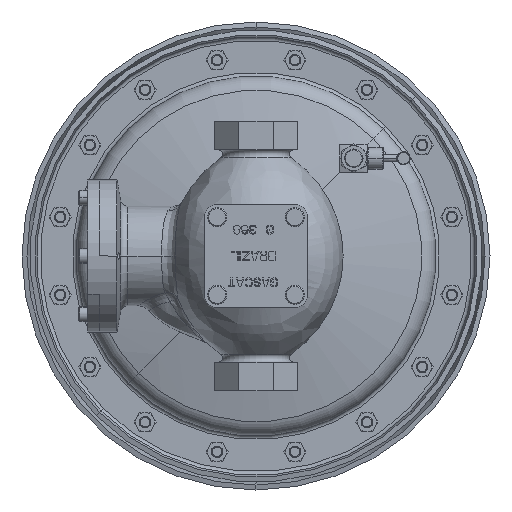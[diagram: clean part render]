
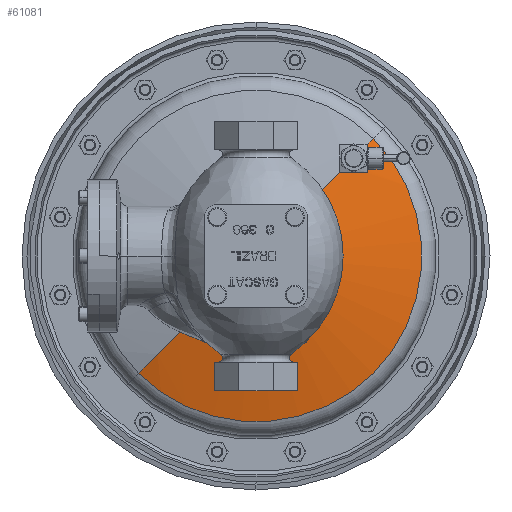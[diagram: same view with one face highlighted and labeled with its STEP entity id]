
A CAD part, front view. The second image highlights one B-rep face of the part: STEP entity #61081.
In plain terms, the highlighted spherical face has radius 403.5 mm.
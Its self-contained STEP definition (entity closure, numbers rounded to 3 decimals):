
#16664=CARTESIAN_POINT('',(60.069,109.578,60.069));
#16736=CARTESIAN_POINT('',(73.574,114.18,73.574));
#16743=CARTESIAN_POINT('',(73.574,114.18,73.574));
#16744=CARTESIAN_POINT('',(73.677,114.18,73.472));
#16745=CARTESIAN_POINT('',(73.876,114.179,73.264));
#16746=CARTESIAN_POINT('',(74.161,114.172,72.937));
#16747=CARTESIAN_POINT('',(74.431,114.16,72.598));
#16748=CARTESIAN_POINT('',(74.685,114.143,72.246));
#16749=CARTESIAN_POINT('',(74.924,114.122,71.883));
#16750=CARTESIAN_POINT('',(75.145,114.096,71.51));
#16751=CARTESIAN_POINT('',(75.35,114.065,71.126));
#16752=CARTESIAN_POINT('',(75.537,114.03,70.734));
#16753=CARTESIAN_POINT('',(75.706,113.99,70.333));
#16754=CARTESIAN_POINT('',(75.857,113.946,69.923));
#16755=CARTESIAN_POINT('',(75.99,113.897,69.507));
#16756=CARTESIAN_POINT('',(76.103,113.844,69.085));
#16757=CARTESIAN_POINT('',(76.197,113.787,68.657));
#16758=CARTESIAN_POINT('',(76.271,113.726,68.225));
#16759=CARTESIAN_POINT('',(76.326,113.661,67.789));
#16760=CARTESIAN_POINT('',(76.36,113.591,67.35));
#16761=CARTESIAN_POINT('',(76.375,113.519,66.91));
#16762=CARTESIAN_POINT('',(76.368,113.442,66.468));
#16763=CARTESIAN_POINT('',(76.342,113.362,66.027));
#16764=CARTESIAN_POINT('',(76.295,113.279,65.587));
#16765=CARTESIAN_POINT('',(76.227,113.192,65.148));
#16766=CARTESIAN_POINT('',(76.139,113.103,64.713));
#16767=CARTESIAN_POINT('',(76.031,113.01,64.281));
#16768=CARTESIAN_POINT('',(75.903,112.915,63.855));
#16769=CARTESIAN_POINT('',(75.754,112.818,63.434));
#16770=CARTESIAN_POINT('',(75.586,112.719,63.02));
#16771=CARTESIAN_POINT('',(75.399,112.618,62.614));
#16772=CARTESIAN_POINT('',(75.192,112.515,62.217));
#16773=CARTESIAN_POINT('',(74.967,112.41,61.83));
#16774=CARTESIAN_POINT('',(74.724,112.304,61.454));
#16775=CARTESIAN_POINT('',(74.464,112.198,61.089));
#16776=CARTESIAN_POINT('',(74.186,112.09,60.736));
#16777=CARTESIAN_POINT('',(73.892,111.982,60.397));
#16778=CARTESIAN_POINT('',(73.582,111.874,60.071));
#16779=CARTESIAN_POINT('',(73.258,111.766,59.762));
#16780=CARTESIAN_POINT('',(72.921,111.659,59.468));
#16781=CARTESIAN_POINT('',(72.572,111.552,59.193));
#16782=CARTESIAN_POINT('',(72.215,111.448,58.936));
#16783=CARTESIAN_POINT('',(71.85,111.345,58.699));
#16784=CARTESIAN_POINT('',(71.478,111.245,58.48));
#16785=CARTESIAN_POINT('',(71.101,111.147,58.28));
#16786=CARTESIAN_POINT('',(70.718,111.051,58.099));
#16787=CARTESIAN_POINT('',(70.332,110.958,57.937));
#16788=CARTESIAN_POINT('',(69.943,110.867,57.793));
#16789=CARTESIAN_POINT('',(69.55,110.779,57.666));
#16790=CARTESIAN_POINT('',(69.155,110.693,57.558));
#16791=CARTESIAN_POINT('',(68.757,110.61,57.467));
#16792=CARTESIAN_POINT('',(68.358,110.53,57.393));
#16793=CARTESIAN_POINT('',(67.958,110.452,57.337));
#16794=CARTESIAN_POINT('',(67.557,110.377,57.297));
#16795=CARTESIAN_POINT('',(67.155,110.305,57.275));
#16796=CARTESIAN_POINT('',(66.753,110.236,57.269));
#16797=CARTESIAN_POINT('',(66.351,110.17,57.28));
#16798=CARTESIAN_POINT('',(65.949,110.107,57.309));
#16799=CARTESIAN_POINT('',(65.549,110.046,57.354));
#16800=CARTESIAN_POINT('',(65.149,109.989,57.416));
#16801=CARTESIAN_POINT('',(64.752,109.935,57.496));
#16802=CARTESIAN_POINT('',(64.357,109.885,57.592));
#16803=CARTESIAN_POINT('',(63.964,109.837,57.706));
#16804=CARTESIAN_POINT('',(63.576,109.794,57.837));
#16805=CARTESIAN_POINT('',(63.191,109.754,57.985));
#16806=CARTESIAN_POINT('',(62.812,109.718,58.151));
#16807=CARTESIAN_POINT('',(62.438,109.685,58.334));
#16808=CARTESIAN_POINT('',(62.071,109.657,58.533));
#16809=CARTESIAN_POINT('',(61.713,109.633,58.749));
#16810=CARTESIAN_POINT('',(61.362,109.613,58.982));
#16811=CARTESIAN_POINT('',(61.021,109.597,59.231));
#16812=CARTESIAN_POINT('',(60.691,109.586,59.495));
#16813=CARTESIAN_POINT('',(60.373,109.579,59.774));
#16814=CARTESIAN_POINT('',(60.169,109.578,59.969));
#16815=CARTESIAN_POINT('',(60.069,109.578,60.069));
#16817=CARTESIAN_POINT('',(0.,504.034,0.));
#16818=DIRECTION('',(-0.707,0.,0.707));
#16819=DIRECTION('',(0.182,-0.966,0.182));
#16820=AXIS2_PLACEMENT_3D('',#16817,#16818,#16819);
#16822=CARTESIAN_POINT('',(0.,504.034,0.));
#16823=DIRECTION('',(0.707,0.,-0.707));
#16824=DIRECTION('',(-0.101,-0.99,-0.101));
#16825=AXIS2_PLACEMENT_3D('',#16822,#16823,#16824);
#16827=CARTESIAN_POINT('',(0.,104.697,0.));
#16828=DIRECTION('',(0.,1.,0.));
#16829=DIRECTION('',(0.707,0.,0.707));
#16830=AXIS2_PLACEMENT_3D('',#16827,#16828,#16829);
#16832=CARTESIAN_POINT('',(0.,504.034,0.));
#16833=DIRECTION('',(-0.707,0.,0.707));
#16834=DIRECTION('',(0.101,-0.99,0.101));
#16835=AXIS2_PLACEMENT_3D('',#16832,#16833,#16834);
#16842=CARTESIAN_POINT('',(0.,116.765,0.));
#16843=DIRECTION('',(0.,-1.,0.));
#16844=DIRECTION('',(-0.707,0.,-0.707));
#16845=AXIS2_PLACEMENT_3D('',#16842,#16843,#16844);
#40705=CARTESIAN_POINT('',(-80.108,116.765,
-80.108));
#40707=VERTEX_POINT('',#40705);
#40713=CARTESIAN_POINT('',(80.108,116.765,80.108));
#40715=VERTEX_POINT('',#40713);
#40841=CARTESIAN_POINT('',(-40.88,104.697,
-40.88));
#40842=CARTESIAN_POINT('',(40.88,104.697,40.88));
#40843=VERTEX_POINT('',#40841);
#40844=VERTEX_POINT('',#40842);
#40857=VERTEX_POINT('',#16664);
#40858=VERTEX_POINT('',#16736);
#61066=CARTESIAN_POINT('',(0.,504.034,0.));
#61067=DIRECTION('',(0.,1.,0.));
#61068=DIRECTION('',(-0.707,0.,-0.707));
#61069=AXIS2_PLACEMENT_3D('',#61066,#61067,#61068);
#61070=SPHERICAL_SURFACE('',#61069,403.5);
#61071=ORIENTED_EDGE('',*,*,#61028,.F.);
#61072=ORIENTED_EDGE('',*,*,#61061,.T.);
#61074=ORIENTED_EDGE('',*,*,#61073,.F.);
#61075=ORIENTED_EDGE('',*,*,#61057,.F.);
#61077=ORIENTED_EDGE('',*,*,#61076,.F.);
#61078=ORIENTED_EDGE('',*,*,#61053,.T.);
#61079=EDGE_LOOP('',(#61071,#61072,#61074,#61075,#61077,#61078));
#61080=FACE_OUTER_BOUND('',#61079,.F.);
#61081=ADVANCED_FACE('',(#61080),#61070,.T.);
#16816=B_SPLINE_CURVE_WITH_KNOTS('',3,(#16743,#16744,#16745,#16746,#16747,
#16748,#16749,#16750,#16751,#16752,#16753,#16754,#16755,#16756,#16757,#16758,
#16759,#16760,#16761,#16762,#16763,#16764,#16765,#16766,#16767,#16768,#16769,
#16770,#16771,#16772,#16773,#16774,#16775,#16776,#16777,#16778,#16779,#16780,
#16781,#16782,#16783,#16784,#16785,#16786,#16787,#16788,#16789,#16790,#16791,
#16792,#16793,#16794,#16795,#16796,#16797,#16798,#16799,#16800,#16801,#16802,
#16803,#16804,#16805,#16806,#16807,#16808,#16809,#16810,#16811,#16812,#16813,
#16814,#16815),.UNSPECIFIED.,.F.,.F.,(4,1,1,1,1,1,1,1,1,1,1,1,1,1,1,1,1,1,1,1,1,
1,1,1,1,1,1,1,1,1,1,1,1,1,1,1,1,1,1,1,1,1,1,1,1,1,1,1,1,1,1,1,1,1,1,1,1,1,1,1,1,
1,1,1,1,1,1,1,1,1,4),(0.,0.014,0.029,
0.043,0.057,0.071,0.086,0.1,
0.114,0.129,0.143,0.157,
0.171,0.186,0.2,0.214,0.229,
0.243,0.257,0.271,0.286,0.3,
0.314,0.329,0.343,0.357,
0.371,0.386,0.4,0.414,0.429,
0.443,0.457,0.471,0.486,0.5,
0.514,0.529,0.543,0.557,
0.571,0.586,0.6,0.614,0.629,
0.643,0.657,0.671,0.686,0.7,
0.714,0.729,0.743,0.757,
0.771,0.786,0.8,0.814,0.829,
0.843,0.857,0.871,0.886,0.9,
0.914,0.929,0.943,0.957,
0.971,0.986,1.),.UNSPECIFIED.);
#16821=CIRCLE('',#16820,403.5);
#16826=CIRCLE('',#16825,403.5);
#16831=CIRCLE('',#16830,57.814);
#16836=CIRCLE('',#16835,403.5);
#16846=CIRCLE('',#16845,113.29);
#61028=EDGE_CURVE('',#40858,#40857,#16816,.T.);
#61053=EDGE_CURVE('',#40844,#40857,#16836,.T.);
#61057=EDGE_CURVE('',#40843,#40707,#16826,.T.);
#61061=EDGE_CURVE('',#40858,#40715,#16821,.T.);
#61073=EDGE_CURVE('',#40707,#40715,#16846,.T.);
#61076=EDGE_CURVE('',#40844,#40843,#16831,.T.);
